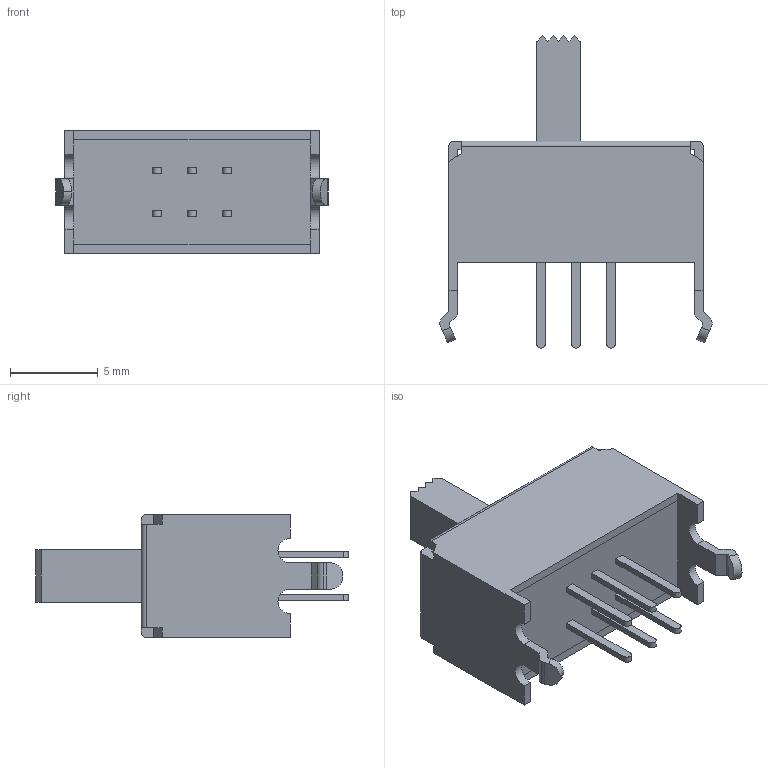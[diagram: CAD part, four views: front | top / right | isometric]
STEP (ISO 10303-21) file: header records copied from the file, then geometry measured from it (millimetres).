
FILE_DESCRIPTION (( 'STEP AP214' ), '1' );
FILE_NAME ('SSSF021500.STEP', '2011-04-04T04:52:18', ( '' ), ( '' ), 'SwSTEP 2.0', 'SolidWorks 2007', '' );
FILE_SCHEMA (( 'AUTOMOTIVE_DESIGN' ));
Length unit declared in the file: millimetre
Products named in the file (1): SSSF021500
Bounding box: 15.52 x 17.8 x 7 mm (x, y, z)
Volume: 752.3 mm3; surface area: 715.1 mm2
Topology: 1 solids, 1 shells, 108 faces, 306 edges, 204 vertices
Faces by surface type: plane 81, cylinder 27
Entity records: 4021 total; most frequent: CARTESIAN_POINT 619, ORIENTED_EDGE 612, DIRECTION 578, EDGE_CURVE 306, LINE 252, VECTOR 252, VERTEX_POINT 204, AXIS2_PLACEMENT_3D 163
